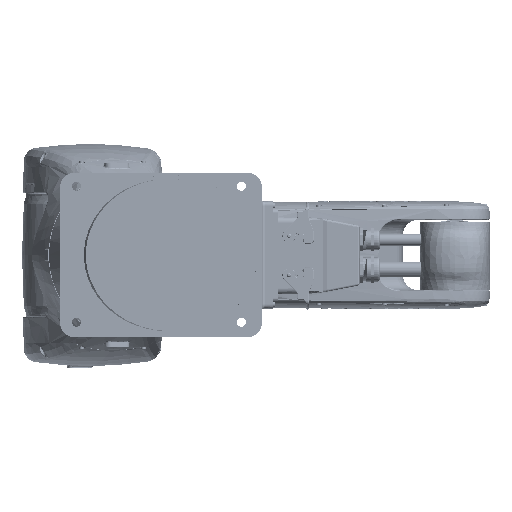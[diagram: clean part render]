
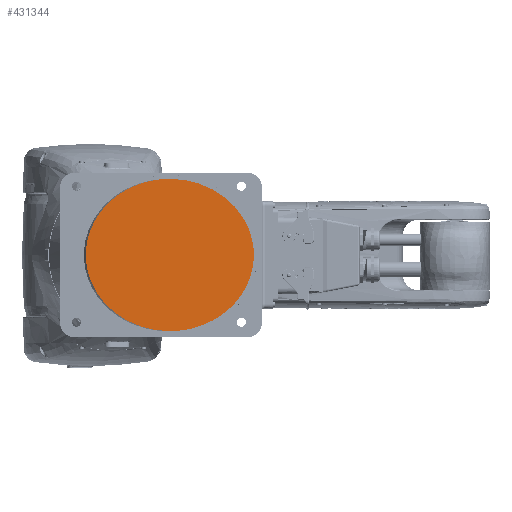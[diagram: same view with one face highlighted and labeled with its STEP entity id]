
A CAD part, front view. The second image highlights one B-rep face of the part: STEP entity #431344.
In plain terms, the highlighted planar face has unit normal (0, -1, 0) as drawn and (-1, 0, 0) by its records, which use the part's own axes.
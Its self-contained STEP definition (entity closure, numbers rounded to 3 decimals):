
#1912 = CARTESIAN_POINT ( 'NONE',  ( 0., 111.817, -92.4 ) ) ;
#21675 = CARTESIAN_POINT ( 'NONE',  ( 0., 111.817, -92.4 ) ) ;
#43988 = VERTEX_POINT ( 'NONE', #295895 ) ;
#98879 = PLANE ( 'NONE',  #225891 ) ;
#113163 = EDGE_CURVE ( 'NONE', #43988, #159033, #311296, .T. ) ;
#159033 = VERTEX_POINT ( 'NONE', #389334 ) ;
#179675 = DIRECTION ( 'NONE',  ( 0., -1., 0. ) ) ;
#186132 = CARTESIAN_POINT ( 'NONE',  ( 0., 111.817, 92.4 ) ) ;
#198779 = ORIENTED_EDGE ( 'NONE', *, *, #113163, .F. ) ;
#201454 = CARTESIAN_POINT ( 'NONE',  ( 0., 315.721, 92.4 ) ) ;
#208265 = CARTESIAN_POINT ( 'NONE',  ( 0., 78., 0. ) ) ;
#221203 = CARTESIAN_POINT ( 'NONE',  ( 0., -92.088, -92.4 ) ) ;
#225891 = AXIS2_PLACEMENT_3D ( 'NONE', #208265, #304924, #179675 ) ;
#295895 = CARTESIAN_POINT ( 'NONE',  ( 0., 111.817, 92.4 ) ) ;
#304924 = DIRECTION ( 'NONE',  ( -1., 0., 0. ) ) ;
#311296 =( BOUNDED_CURVE ( )  B_SPLINE_CURVE ( 3, ( #186132, #348520, #221203, #21675 ),
 .UNSPECIFIED., .F., .F. ) 
 B_SPLINE_CURVE_WITH_KNOTS ( ( 4, 4 ),
 ( 1.571, 4.712 ),
 .UNSPECIFIED. ) 
 CURVE ( )  GEOMETRIC_REPRESENTATION_ITEM ( )  RATIONAL_B_SPLINE_CURVE ( ( 1., 0.333, 0.333, 1. ) ) 
 REPRESENTATION_ITEM ( '' )  );
#316527 = ORIENTED_EDGE ( 'NONE', *, *, #344831, .F. ) ;
#331974 = EDGE_LOOP ( 'NONE', ( #316527, #198779 ) ) ;
#344831 = EDGE_CURVE ( 'NONE', #159033, #43988, #371850, .T. ) ;
#348520 = CARTESIAN_POINT ( 'NONE',  ( 0., -92.088, 92.4 ) ) ;
#362017 = FACE_OUTER_BOUND ( 'NONE', #331974, .T. ) ;
#371850 =( BOUNDED_CURVE ( )  B_SPLINE_CURVE ( 3, ( #1912, #401178, #201454, #405475 ),
 .UNSPECIFIED., .F., .T. ) 
 B_SPLINE_CURVE_WITH_KNOTS ( ( 4, 4 ),
 ( 4.712, 7.854 ),
 .UNSPECIFIED. ) 
 CURVE ( )  GEOMETRIC_REPRESENTATION_ITEM ( )  RATIONAL_B_SPLINE_CURVE ( ( 1., 0.333, 0.333, 1. ) ) 
 REPRESENTATION_ITEM ( '' )  );
#389334 = CARTESIAN_POINT ( 'NONE',  ( 0., 111.817, -92.4 ) ) ;
#401178 = CARTESIAN_POINT ( 'NONE',  ( 0., 315.721, -92.4 ) ) ;
#405475 = CARTESIAN_POINT ( 'NONE',  ( 0., 111.817, 92.4 ) ) ;
#431344 = ADVANCED_FACE ( 'NONE', ( #362017 ), #98879, .T. ) ;
